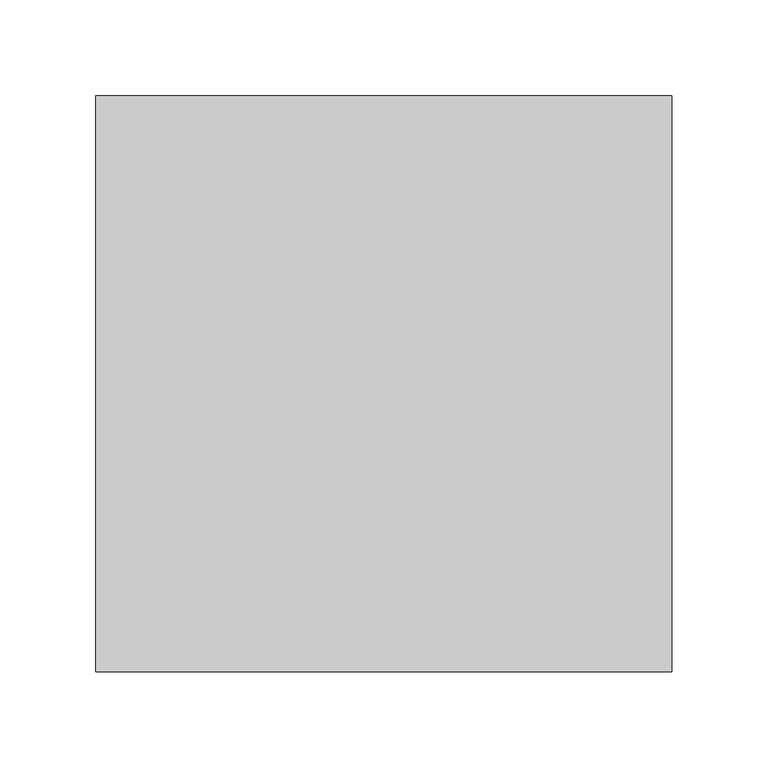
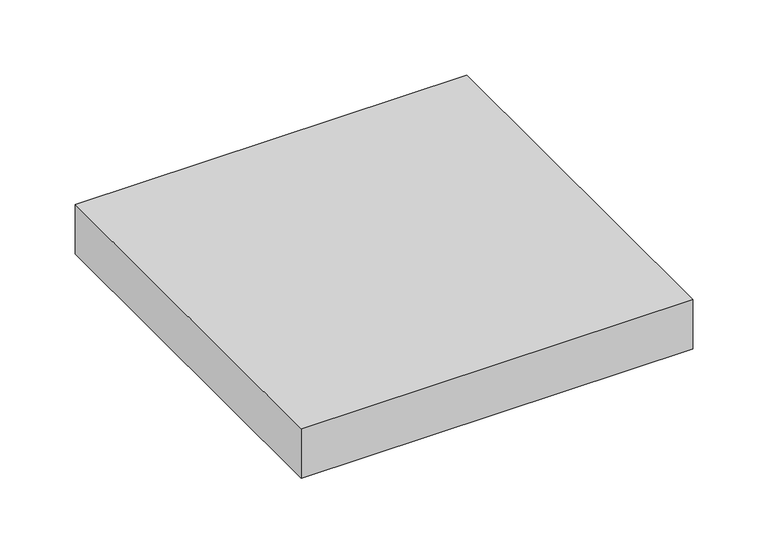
"""IFC4 building model written with IfcOpenShell, lengths in millimetres: proxy geometry, 00-Calev1 (00-Sol) : Cale."""

from ifc_helpers import new_model, si_unit, origin, origin_with_axes, place, context, project, spatial, polyline, outline, extrude, source, transform, mapped, element, save


def generic_models_9ba4c96e(model_context):
    return source(origin(), model_context, "Body", "SweptSolid", [
        extrude(outline(polyline([(150.0, 150.0), (150.0, -150.0), (-150.0, -150.0), (-150.0, 150.0), (150.0, 150.0)])), origin_with_axes(), (0.0, 0.0, 1.0), 40.0389734),
    ])


if __name__ == "__main__":
    model = new_model("IFC4")
    model_context = context("Model", 3, world=origin())
    ifc_project = project(units=[si_unit("LENGTHUNIT", "METRE", prefix="MILLI")], contexts=[model_context])
    site = spatial("IfcSite", under=ifc_project)
    building = spatial("IfcBuilding", under=site)
    placement = place(None, origin())
    generic_models_shape = generic_models_9ba4c96e(model_context)
    element("IfcBuildingElementProxy", 1, Name="00-Calev1 (00-Sol) : Cale", ObjectType="00-Calev1 (00-Sol) : Cale", at=placement, inside=building, context=model_context, shape_type="MappedRepresentation", body=[
        mapped(generic_models_shape, transform((0.0, 0.0, 0.0), x_axis=(1.0, 0.0, 0.0), y_axis=(0.0, 1.0, 0.0), z_axis=(0.0, 0.0, 1.0))),
    ])
    save(model, "model.ifc")
